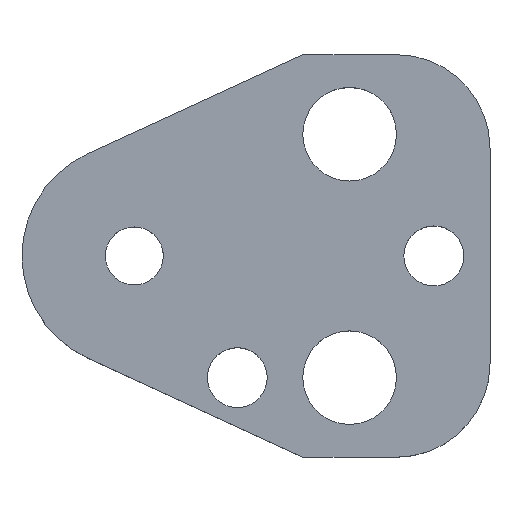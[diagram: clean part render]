
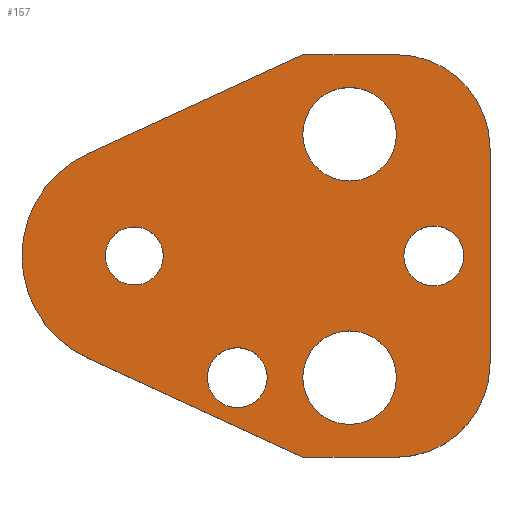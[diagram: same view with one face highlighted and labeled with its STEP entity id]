
A CAD part, top view. The second image highlights one B-rep face of the part: STEP entity #157.
In plain terms, the highlighted planar face has unit normal (0, 0, 1).
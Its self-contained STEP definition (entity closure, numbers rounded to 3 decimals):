
#103=FACE_BOUND('',#207,.T.);
#104=FACE_BOUND('',#208,.T.);
#105=FACE_BOUND('',#209,.T.);
#106=FACE_BOUND('',#210,.T.);
#107=FACE_BOUND('',#211,.T.);
#108=FACE_BOUND('',#212,.T.);
#122=CIRCLE('',#480,10.);
#124=CIRCLE('',#484,10.);
#127=CIRCLE('',#490,12.);
#138=CIRCLE('',#503,3.2);
#139=CIRCLE('',#504,3.2);
#140=CIRCLE('',#505,5.);
#141=CIRCLE('',#506,5.);
#142=CIRCLE('',#507,5.);
#143=CIRCLE('',#508,5.);
#144=CIRCLE('',#509,3.2);
#145=CIRCLE('',#510,3.2);
#146=CIRCLE('',#511,3.1);
#147=CIRCLE('',#512,3.1);
#157=ADVANCED_FACE('',(#103,#104,#105,#106,#107,#108),#174,.T.);
#174=PLANE('',#513);
#207=EDGE_LOOP('',(#273,#274,#275,#276,#277,#278,#279,#280));
#208=EDGE_LOOP('',(#281,#282));
#209=EDGE_LOOP('',(#283,#284));
#210=EDGE_LOOP('',(#285,#286));
#211=EDGE_LOOP('',(#287,#288));
#212=EDGE_LOOP('',(#289,#290));
#273=ORIENTED_EDGE('',*,*,#368,.T.);
#274=ORIENTED_EDGE('',*,*,#372,.T.);
#275=ORIENTED_EDGE('',*,*,#375,.T.);
#276=ORIENTED_EDGE('',*,*,#378,.T.);
#277=ORIENTED_EDGE('',*,*,#381,.T.);
#278=ORIENTED_EDGE('',*,*,#384,.T.);
#279=ORIENTED_EDGE('',*,*,#387,.T.);
#280=ORIENTED_EDGE('',*,*,#390,.T.);
#281=ORIENTED_EDGE('',*,*,#401,.T.);
#282=ORIENTED_EDGE('',*,*,#402,.T.);
#283=ORIENTED_EDGE('',*,*,#403,.T.);
#284=ORIENTED_EDGE('',*,*,#404,.T.);
#285=ORIENTED_EDGE('',*,*,#405,.T.);
#286=ORIENTED_EDGE('',*,*,#406,.T.);
#287=ORIENTED_EDGE('',*,*,#407,.T.);
#288=ORIENTED_EDGE('',*,*,#408,.T.);
#289=ORIENTED_EDGE('',*,*,#409,.T.);
#290=ORIENTED_EDGE('',*,*,#410,.T.);
#332=VERTEX_POINT('',#649);
#333=VERTEX_POINT('',#651);
#336=VERTEX_POINT('',#658);
#338=VERTEX_POINT('',#664);
#340=VERTEX_POINT('',#670);
#342=VERTEX_POINT('',#676);
#344=VERTEX_POINT('',#682);
#346=VERTEX_POINT('',#688);
#357=VERTEX_POINT('',#717);
#358=VERTEX_POINT('',#718);
#359=VERTEX_POINT('',#721);
#360=VERTEX_POINT('',#722);
#361=VERTEX_POINT('',#725);
#362=VERTEX_POINT('',#726);
#363=VERTEX_POINT('',#729);
#364=VERTEX_POINT('',#730);
#365=VERTEX_POINT('',#733);
#366=VERTEX_POINT('',#734);
#368=EDGE_CURVE('',#333,#332,#422,.T.);
#372=EDGE_CURVE('',#332,#336,#426,.T.);
#375=EDGE_CURVE('',#336,#338,#122,.T.);
#378=EDGE_CURVE('',#338,#340,#430,.T.);
#381=EDGE_CURVE('',#340,#342,#124,.T.);
#384=EDGE_CURVE('',#342,#344,#434,.T.);
#387=EDGE_CURVE('',#344,#346,#437,.T.);
#390=EDGE_CURVE('',#346,#333,#127,.T.);
#401=EDGE_CURVE('',#357,#358,#138,.T.);
#402=EDGE_CURVE('',#358,#357,#139,.T.);
#403=EDGE_CURVE('',#359,#360,#140,.T.);
#404=EDGE_CURVE('',#360,#359,#141,.T.);
#405=EDGE_CURVE('',#361,#362,#142,.T.);
#406=EDGE_CURVE('',#362,#361,#143,.T.);
#407=EDGE_CURVE('',#363,#364,#144,.T.);
#408=EDGE_CURVE('',#364,#363,#145,.T.);
#409=EDGE_CURVE('',#365,#366,#146,.T.);
#410=EDGE_CURVE('',#366,#365,#147,.T.);
#422=LINE('',#650,#450);
#426=LINE('',#659,#454);
#430=LINE('',#671,#458);
#434=LINE('',#683,#462);
#437=LINE('',#689,#465);
#450=VECTOR('',#527,1.);
#454=VECTOR('',#533,1.);
#458=VECTOR('',#545,1.);
#462=VECTOR('',#557,1.);
#465=VECTOR('',#562,1.);
#480=AXIS2_PLACEMENT_3D('',#665,#538,#539);
#484=AXIS2_PLACEMENT_3D('',#677,#550,#551);
#490=AXIS2_PLACEMENT_3D('',#693,#568,#569);
#503=AXIS2_PLACEMENT_3D('',#716,#594,#595);
#504=AXIS2_PLACEMENT_3D('',#719,#596,#597);
#505=AXIS2_PLACEMENT_3D('',#720,#598,#599);
#506=AXIS2_PLACEMENT_3D('',#723,#600,#601);
#507=AXIS2_PLACEMENT_3D('',#724,#602,#603);
#508=AXIS2_PLACEMENT_3D('',#727,#604,#605);
#509=AXIS2_PLACEMENT_3D('',#728,#606,#607);
#510=AXIS2_PLACEMENT_3D('',#731,#608,#609);
#511=AXIS2_PLACEMENT_3D('',#732,#610,#611);
#512=AXIS2_PLACEMENT_3D('',#735,#612,#613);
#513=AXIS2_PLACEMENT_3D('',#736,#614,#615);
#527=DIRECTION('',(0.908,-0.418,0.));
#533=DIRECTION('',(1.,0.,0.));
#538=DIRECTION('',(0.,0.,1.));
#539=DIRECTION('',(-0.707,0.707,0.));
#545=DIRECTION('',(0.,1.,0.));
#550=DIRECTION('',(0.,0.,1.));
#551=DIRECTION('',(-0.707,-0.707,0.));
#557=DIRECTION('',(-1.,0.,0.));
#562=DIRECTION('',(-0.908,-0.418,0.));
#568=DIRECTION('',(0.,0.,1.));
#569=DIRECTION('',(1.,0.,0.));
#594=DIRECTION('',(0.,0.,-1.));
#595=DIRECTION('',(-1.,0.,0.));
#596=DIRECTION('',(0.,0.,-1.));
#597=DIRECTION('',(1.,0.,0.));
#598=DIRECTION('',(0.,0.,-1.));
#599=DIRECTION('',(-1.,0.,0.));
#600=DIRECTION('',(0.,0.,-1.));
#601=DIRECTION('',(1.,0.,0.));
#602=DIRECTION('',(0.,0.,-1.));
#603=DIRECTION('',(-1.,0.,0.));
#604=DIRECTION('',(0.,0.,-1.));
#605=DIRECTION('',(1.,0.,0.));
#606=DIRECTION('',(0.,0.,-1.));
#607=DIRECTION('',(-1.,0.,0.));
#608=DIRECTION('',(0.,0.,-1.));
#609=DIRECTION('',(1.,0.,0.));
#610=DIRECTION('',(0.,0.,-1.));
#611=DIRECTION('',(-1.,0.,0.));
#612=DIRECTION('',(0.,0.,-1.));
#613=DIRECTION('',(1.,0.,0.));
#614=DIRECTION('',(0.,0.,1.));
#615=DIRECTION('',(0.908,-0.418,0.));
#649=CARTESIAN_POINT('',(18.,-21.5,7.));
#650=CARTESIAN_POINT('',(18.,-21.5,7.));
#651=CARTESIAN_POINT('',(-5.019,-10.9,7.));
#658=CARTESIAN_POINT('',(28.,-21.5,7.));
#659=CARTESIAN_POINT('',(18.,-21.5,7.));
#664=CARTESIAN_POINT('',(38.,-11.5,7.));
#665=CARTESIAN_POINT('',(28.,-11.5,7.));
#670=CARTESIAN_POINT('',(38.,11.5,7.));
#671=CARTESIAN_POINT('',(38.,11.5,7.));
#676=CARTESIAN_POINT('',(28.,21.5,7.));
#677=CARTESIAN_POINT('',(28.,11.5,7.));
#682=CARTESIAN_POINT('',(18.,21.5,7.));
#683=CARTESIAN_POINT('',(18.,21.5,7.));
#688=CARTESIAN_POINT('',(-5.019,10.9,7.));
#689=CARTESIAN_POINT('',(18.,21.5,7.));
#693=CARTESIAN_POINT('',(0.,0.,7.));
#716=CARTESIAN_POINT('',(32.,0.,7.));
#717=CARTESIAN_POINT('',(32.,3.2,7.));
#718=CARTESIAN_POINT('',(32.,-3.2,7.));
#719=CARTESIAN_POINT('',(32.,0.,7.));
#720=CARTESIAN_POINT('',(23.,13.,7.));
#721=CARTESIAN_POINT('',(23.,18.,7.));
#722=CARTESIAN_POINT('',(23.,8.,7.));
#723=CARTESIAN_POINT('',(23.,13.,7.));
#724=CARTESIAN_POINT('',(23.,-13.,7.));
#725=CARTESIAN_POINT('',(23.,-8.,7.));
#726=CARTESIAN_POINT('',(23.,-18.,7.));
#727=CARTESIAN_POINT('',(23.,-13.,7.));
#728=CARTESIAN_POINT('',(11.,-13.,7.));
#729=CARTESIAN_POINT('',(11.,-9.8,7.));
#730=CARTESIAN_POINT('',(11.,-16.2,7.));
#731=CARTESIAN_POINT('',(11.,-13.,7.));
#732=CARTESIAN_POINT('',(0.,0.,7.));
#733=CARTESIAN_POINT('',(0.,3.1,7.));
#734=CARTESIAN_POINT('',(0.,-3.1,7.));
#735=CARTESIAN_POINT('',(0.,0.,7.));
#736=CARTESIAN_POINT('',(-5.019,-10.9,7.));
